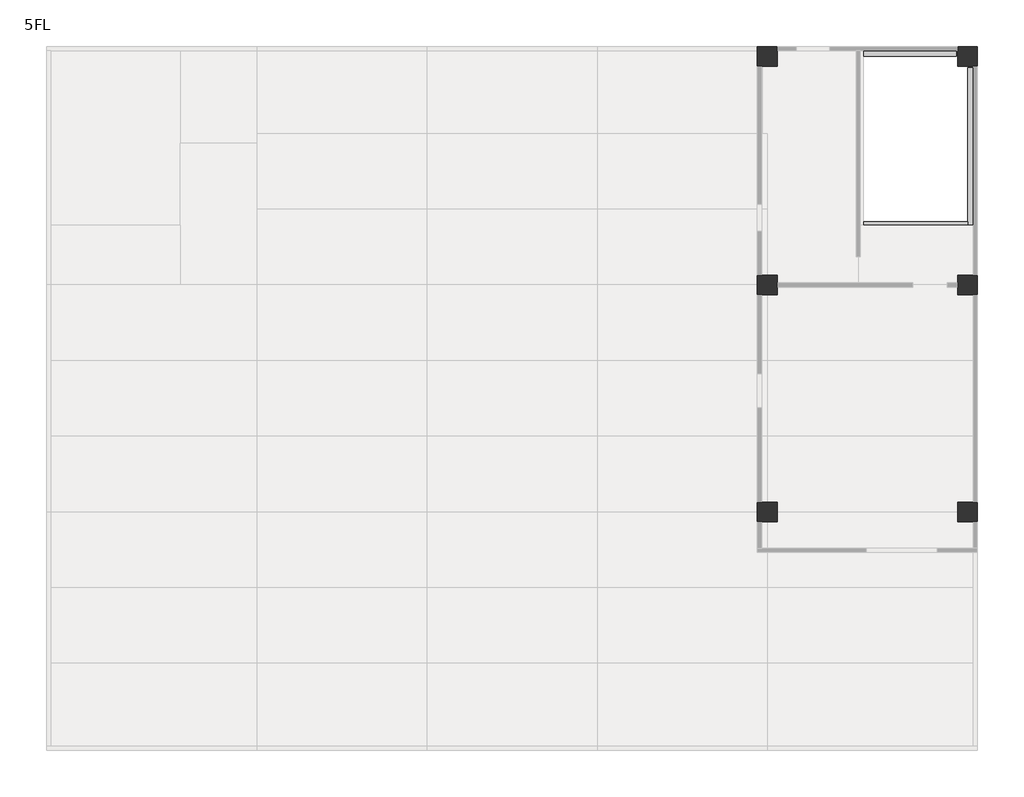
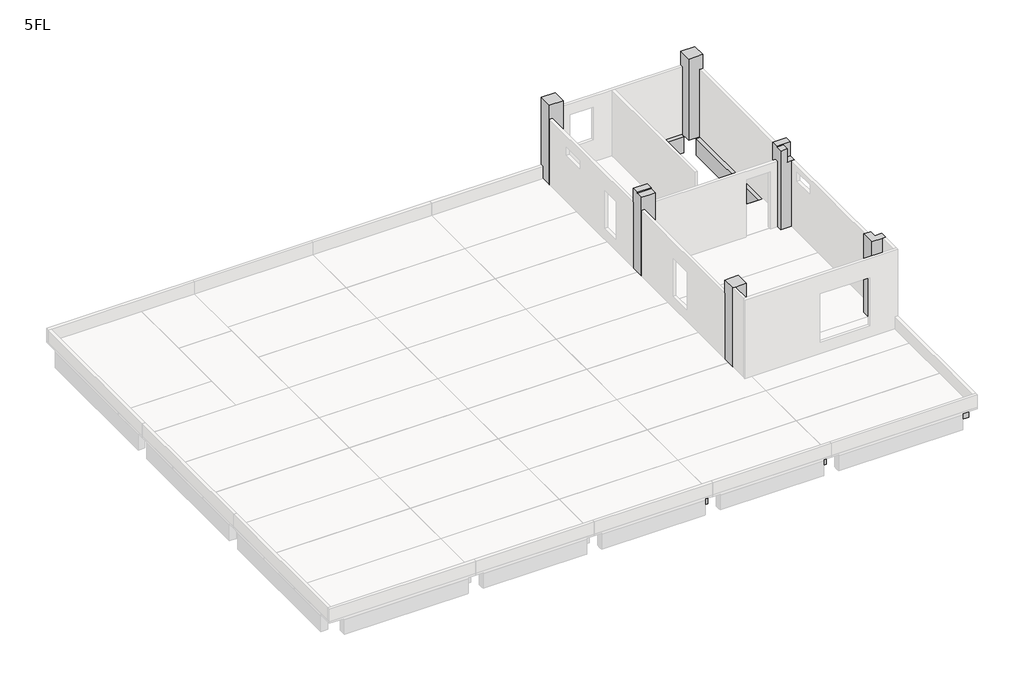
# One storey, part 3 of 3: 52 beams, 6 columns.
"""IFC4 building model written with IfcOpenShell, lengths in millimetres."""

from ifc_helpers import new_model, si_unit, frame, origin, place, context, project, spatial, polyline, outline, extrude, faceted_brep, element, save

model = new_model("IFC4")

# Units and contexts
model_context = context("Model", 3, world=origin())
ifc_project = project(units=[si_unit("LENGTHUNIT", "METRE", prefix="MILLI")], contexts=[model_context])

# Site, building, storey
site = spatial("IfcSite", under=ifc_project)
building = spatial("IfcBuilding", under=site)
storey = spatial("IfcBuildingStorey", under=building, Name="5FL", Elevation=16400.0)

# Beams
placement = place(None, origin())
element("IfcBeam", 1, ObjectType="RC_B : 5G1", at=placement, inside=storey, context=model_context, shape_type="Brep", body=[
    faceted_brep([(6625.0, 24400.0, 15450.0), (350.0, 24400.0, 15450.0), (350.0, 24400.0, 16240.0), (4144.0, 24400.0, 16240.0), (4144.0, 24400.0, 15550.0), (4494.0, 24400.0, 15550.0), (4494.0, 24400.0, 16240.0), (6625.0, 24400.0, 16240.0), (6625.0, 24250.0, 15450.0), (6625.0, 24050.0, 15450.0), (4294.0, 24050.0, 15450.0), (4144.0, 24050.0, 15450.0), (350.0, 24050.0, 15450.0), (350.0, 24250.0, 15450.0), (6625.0, 24050.0, 16240.0), (4494.0, 24050.0, 16240.0), (4494.0, 24050.0, 15550.0), (4294.0, 24050.0, 15550.0), (4144.0, 24050.0, 15550.0), (4144.0, 24050.0, 16240.0), (350.0, 24050.0, 16240.0)], [[[0, 1, 2, 3, 4, 5, 6, 7]], [[0, 8, 9, 10, 11, 12, 13, 1]], [[9, 14, 15, 16, 17, 18, 19, 20, 12, 11, 10]], [[9, 8, 0, 7, 14]], [[14, 7, 6, 15]], [[2, 1, 13, 12, 20]], [[18, 4, 3, 19]], [[4, 18, 17, 16, 5]], [[5, 16, 15, 6]], [[2, 20, 19, 3]]]),
])
element("IfcBeam", 2, ObjectType="RC_B : 5G1", at=placement, inside=storey, context=model_context, shape_type="Brep", body=[
    faceted_brep([(12625.0, 24400.0, 16240.0), (12625.0, 24400.0, 15450.0), (7375.0, 24400.0, 15450.0), (7375.0, 24400.0, 16240.0), (12625.0, 24250.0, 15450.0), (12625.0, 24050.0, 15450.0), (7375.0, 24050.0, 15450.0), (7375.0, 24250.0, 15450.0), (12625.0, 24050.0, 16240.0), (7375.0, 24050.0, 16240.0)], [[[0, 1, 2, 3]], [[1, 4, 5, 6, 7, 2]], [[5, 8, 9, 6]], [[5, 4, 1, 0, 8]], [[8, 0, 3, 9]], [[3, 2, 7, 6, 9]]]),
])
element("IfcBeam", 3, ObjectType="RC_B : 5G1", at=placement, inside=storey, context=model_context, shape_type="Brep", body=[
    faceted_brep([(18625.0, 24400.0, 16240.0), (18625.0, 24400.0, 15450.0), (13375.0, 24400.0, 15450.0), (13375.0, 24400.0, 16240.0), (18625.0, 24250.0, 15450.0), (18625.0, 24050.0, 15450.0), (13375.0, 24050.0, 15450.0), (13375.0, 24250.0, 15450.0), (18625.0, 24050.0, 16240.0), (13375.0, 24050.0, 16240.0)], [[[0, 1, 2, 3]], [[1, 4, 5, 6, 7, 2]], [[5, 8, 9, 6]], [[5, 4, 1, 0, 8]], [[8, 0, 3, 9]], [[3, 2, 7, 6, 9]]]),
])
element("IfcBeam", 4, ObjectType="RC_B : 5G1", at=placement, inside=storey, context=model_context, shape_type="Brep", body=[
    faceted_brep([(24625.0, 24400.0, 15450.0), (19375.0, 24400.0, 15450.0), (19375.0, 24400.0, 16240.0), (24625.0, 24400.0, 16240.0), (19375.0, 24050.0, 15450.0), (19375.0, 24250.0, 15450.0), (24625.0, 24250.0, 15450.0), (24625.0, 24050.0, 15450.0), (24625.0, 24050.0, 16240.0), (19375.0, 24050.0, 16240.0)], [[[0, 1, 2, 3]], [[4, 5, 1, 0, 6, 7]], [[4, 7, 8, 9]], [[1, 5, 4, 9, 2]], [[7, 6, 0, 3, 8]], [[3, 2, 9, 8]]]),
])
element("IfcBeam", 5, ObjectType="RC_B : 5G1", at=placement, inside=storey, context=model_context, shape_type="Brep", body=[
    faceted_brep([(31650.0, 24400.0, 16300.0), (31650.0, 24400.0, 15450.0), (25375.0, 24400.0, 15450.0), (25375.0, 24400.0, 16300.0), (28374.0, 24400.0, 16300.0), (31650.0, 24250.0, 15450.0), (31650.0, 24050.0, 15450.0), (25375.0, 24050.0, 15450.0), (25375.0, 24250.0, 15450.0), (31650.0, 24050.0, 16300.0), (28374.0, 24050.0, 16300.0), (28024.0, 24050.0, 16300.0), (25375.0, 24050.0, 16300.0), (25375.0, 24050.0, 16240.0)], [[[0, 1, 2, 3, 4]], [[1, 5, 6, 7, 8, 2]], [[6, 9, 10, 11, 12, 13, 7]], [[9, 0, 4, 3, 12, 11, 10]], [[1, 0, 9, 6, 5]], [[3, 2, 8, 7, 13, 12]]]),
])
element("IfcBeam", 6, ObjectType="RC_B : 5G11", at=placement, inside=storey, context=model_context, shape_type="Brep", body=[
    faceted_brep([(32050.0, 7625.0, 16240.0), (32050.0, 7625.0, 15400.0), (32050.0, 350.0, 15400.0), (32050.0, 350.0, 16240.0), (32050.0, 2485.0, 16240.0), (32050.0, 2835.0, 16240.0), (32050.0, 5155.0, 16240.0), (32050.0, 5505.0, 16240.0), (32250.0, 7625.0, 15400.0), (32400.0, 7625.0, 15400.0), (32400.0, 350.0, 15400.0), (32250.0, 350.0, 15400.0), (32400.0, 7625.0, 16240.0), (32400.0, 5328.0, 16240.0), (32400.0, 2664.0, 16240.0), (32400.0, 350.0, 16240.0)], [[[0, 1, 2, 3, 4, 5, 6, 7]], [[1, 8, 9, 10, 11, 2]], [[9, 12, 13, 14, 15, 10]], [[9, 8, 1, 0, 12]], [[12, 0, 7, 6, 5, 4, 3, 15, 14, 13]], [[3, 2, 11, 10, 15]]]),
])
element("IfcBeam", 7, ObjectType="RC_B : 5G11", at=placement, inside=storey, context=model_context, shape_type="Brep", body=[
    faceted_brep([(32050.0, 15625.0, 16240.0), (32050.0, 15625.0, 15400.0), (32050.0, 13575.0, 15400.0), (32050.0, 13575.0, 15550.0), (32050.0, 13425.0, 15550.0), (32050.0, 13425.0, 15400.0), (32050.0, 8375.0, 15400.0), (32050.0, 8375.0, 16240.0), (32050.0, 10575.0, 16240.0), (32050.0, 10925.0, 16240.0), (32050.0, 13325.0, 16240.0), (32050.0, 13675.0, 16240.0), (32250.0, 15625.0, 15400.0), (32400.0, 15625.0, 15400.0), (32400.0, 8375.0, 15400.0), (32250.0, 8375.0, 15400.0), (32250.0, 13425.0, 15400.0), (32250.0, 13575.0, 15400.0), (32400.0, 15625.0, 16240.0), (32400.0, 13328.0, 16240.0), (32400.0, 10664.0, 16240.0), (32400.0, 8375.0, 16240.0), (32250.0, 13575.0, 15550.0), (32250.0, 13425.0, 15550.0)], [[[0, 1, 2, 3, 4, 5, 6, 7, 8, 9, 10, 11]], [[1, 12, 13, 14, 15, 6, 5, 16, 17, 2]], [[13, 18, 19, 20, 21, 14]], [[13, 12, 1, 0, 18]], [[18, 0, 11, 10, 9, 8, 7, 21, 20, 19]], [[7, 6, 15, 14, 21]], [[17, 22, 3, 2]], [[4, 23, 16, 5]], [[22, 23, 4, 3]], [[23, 22, 17, 16]]]),
])
element("IfcBeam", 8, ObjectType="RC_B : 5G11", at=placement, inside=storey, context=model_context, shape_type="Brep", body=[
    faceted_brep([(32050.0, 23650.0, 16300.0), (32050.0, 23650.0, 15400.0), (32050.0, 16375.0, 15400.0), (32050.0, 16375.0, 16240.0), (32050.0, 17975.0, 16240.0), (32050.0, 18100.0, 16240.0), (32050.0, 18100.0, 16300.0), (32050.0, 18225.0, 16300.0), (32250.0, 23650.0, 15400.0), (32400.0, 23650.0, 15400.0), (32400.0, 16375.0, 15400.0), (32250.0, 16375.0, 15400.0), (32400.0, 23650.0, 16300.0), (32400.0, 18100.0, 16300.0), (32400.0, 18100.0, 16240.0), (32400.0, 16375.0, 16240.0), (32250.0, 18100.0, 16300.0)], [[[0, 1, 2, 3, 4, 5, 6, 7]], [[1, 8, 9, 10, 11, 2]], [[9, 12, 13, 14, 15, 10]], [[12, 0, 7, 6, 16, 13]], [[1, 0, 12, 9, 8]], [[14, 5, 4, 3, 15]], [[5, 14, 13, 16, 6]], [[3, 2, 11, 10, 15]]]),
])
element("IfcBeam", 9, ObjectType="RC_B : 5G12", at=placement, inside=storey, context=model_context, shape_type="Brep", body=[
    faceted_brep([(6825.0, 8375.0, 15400.0), (6825.0, 8375.0, 16300.0), (6825.0, 10664.0, 16300.0), (6825.0, 10664.0, 16240.0), (6825.0, 10925.0, 16240.0), (6825.0, 13325.0, 16240.0), (6825.0, 13675.0, 16240.0), (6825.0, 15625.0, 16240.0), (6825.0, 15625.0, 15400.0), (7175.0, 8375.0, 15400.0), (7175.0, 15625.0, 15400.0), (7175.0, 15625.0, 16240.0), (7175.0, 8375.0, 16240.0), (7000.0, 8375.0, 16300.0), (7000.0, 10664.0, 16300.0), (7000.0, 8375.0, 16240.0), (7000.0, 15625.0, 16240.0), (7000.0, 10664.0, 16240.0), (7000.0, 10575.0, 16240.0)], [[[0, 1, 2, 3, 4, 5, 6, 7, 8]], [[9, 0, 8, 10]], [[9, 10, 11, 12]], [[2, 1, 13, 14]], [[1, 0, 9, 12, 15, 13]], [[10, 8, 7, 16, 11]], [[3, 17, 18, 15, 12, 11, 16, 7, 6, 5, 4]], [[17, 3, 2, 14]], [[15, 18, 17, 14, 13]]]),
])
element("IfcBeam", 10, ObjectType="RC_B : 5G12", at=placement, inside=storey, context=model_context, shape_type="Brep", body=[
    faceted_brep([(6825.0, 23650.0, 15400.0), (6825.0, 21275.0, 15400.0), (6825.0, 21125.0, 15400.0), (6825.0, 16000.0, 15400.0), (6825.0, 16000.0, 15450.0), (6825.0, 16175.0, 15450.0), (6825.0, 16175.0, 16300.0), (6825.0, 20875.0, 16300.0), (6825.0, 21000.0, 16300.0), (6825.0, 21000.0, 16240.0), (6825.0, 21125.0, 16240.0), (6825.0, 21275.0, 16240.0), (6825.0, 23650.0, 16240.0), (7175.0, 23650.0, 15400.0), (7175.0, 16000.0, 15400.0), (7075.0, 16000.0, 15400.0), (6925.0, 16000.0, 15400.0), (7175.0, 23650.0, 16240.0), (7175.0, 18664.0, 16240.0), (7175.0, 18664.0, 16300.0), (7175.0, 18495.0, 16300.0), (7175.0, 16175.0, 16300.0), (7175.0, 16000.0, 16300.0), (7000.0, 16175.0, 16300.0), (7000.0, 16000.0, 16300.0), (7000.0, 18664.0, 16300.0), (7000.0, 21000.0, 16300.0), (7000.0, 23650.0, 16240.0), (7000.0, 16000.0, 15450.0), (7000.0, 16175.0, 15450.0), (7000.0, 18664.0, 16240.0), (7087.7, 18664.0, 16240.0), (6912.3, 21000.0, 16240.0), (7000.0, 21000.0, 16240.0)], [[[0, 1, 2, 3, 4, 5, 6, 7, 8, 9, 10, 11, 12]], [[0, 13, 14, 15, 16, 3, 2, 1]], [[14, 13, 17, 18, 19, 20, 21, 22]], [[6, 23, 24, 22, 21, 20, 19, 25, 26, 8, 7]], [[13, 0, 12, 27, 17]], [[3, 16, 15, 14, 22, 24, 28, 4]], [[29, 23, 6, 5]], [[29, 5, 4, 28]], [[23, 29, 28, 24]], [[30, 31, 18, 17, 27, 12, 11, 10, 9, 32, 33]], [[18, 31, 30, 25, 19]], [[25, 30, 33, 26]], [[33, 32, 9, 8, 26]]]),
])
element("IfcBeam", 11, ObjectType="RC_B : 5G12", at=placement, inside=storey, context=model_context, shape_type="Brep", body=[
    faceted_brep([(12825.0, 8375.0, 15400.0), (12825.0, 8375.0, 16300.0), (12825.0, 10575.0, 16300.0), (12825.0, 10664.0, 16300.0), (12825.0, 10664.0, 16240.0), (12825.0, 15625.0, 16240.0), (12825.0, 15625.0, 15400.0), (13175.0, 8375.0, 15400.0), (13175.0, 15625.0, 15400.0), (13175.0, 15625.0, 16240.0), (13175.0, 8375.0, 16240.0), (13000.0, 8375.0, 16300.0), (13000.0, 10664.0, 16300.0), (13000.0, 8375.0, 16240.0), (13000.0, 15625.0, 16240.0), (13000.0, 10664.0, 16240.0), (13000.0, 10575.0, 16240.0)], [[[0, 1, 2, 3, 4, 5, 6]], [[7, 0, 6, 8]], [[7, 8, 9, 10]], [[3, 2, 1, 11, 12]], [[1, 0, 7, 10, 13, 11]], [[8, 6, 5, 14, 9]], [[4, 15, 16, 13, 10, 9, 14, 5]], [[15, 4, 3, 12]], [[13, 16, 15, 12, 11]]]),
])
element("IfcBeam", 12, ObjectType="RC_B : 5G12", at=placement, inside=storey, context=model_context, shape_type="Brep", body=[
    faceted_brep([(12825.0, 16375.0, 15400.0), (12825.0, 16375.0, 16300.0), (12825.0, 18495.0, 16300.0), (12825.0, 18664.0, 16300.0), (12825.0, 18664.0, 16240.0), (12825.0, 23650.0, 16240.0), (12825.0, 23650.0, 15400.0), (13175.0, 16375.0, 15400.0), (13175.0, 23650.0, 15400.0), (13175.0, 23650.0, 16240.0), (13175.0, 16375.0, 16240.0), (13000.0, 16375.0, 16300.0), (13000.0, 18664.0, 16300.0), (13000.0, 16375.0, 16240.0), (13000.0, 23650.0, 16240.0), (13000.0, 18664.0, 16240.0), (13000.0, 18495.0, 16240.0)], [[[0, 1, 2, 3, 4, 5, 6]], [[7, 0, 6, 8]], [[7, 8, 9, 10]], [[3, 2, 1, 11, 12]], [[1, 0, 7, 10, 13, 11]], [[8, 6, 5, 14, 9]], [[4, 15, 16, 13, 10, 9, 14, 5]], [[15, 4, 3, 12]], [[13, 16, 15, 12, 11]]]),
])
element("IfcBeam", 13, ObjectType="RC_B : 5G12", at=placement, inside=storey, context=model_context, shape_type="Brep", body=[
    faceted_brep([(18825.0, 350.0, 15400.0), (18825.0, 350.0, 16300.0), (18825.0, 2485.0, 16300.0), (18825.0, 2664.0, 16300.0), (18825.0, 2664.0, 16240.0), (18825.0, 7625.0, 16240.0), (18825.0, 7625.0, 15400.0), (19175.0, 350.0, 15400.0), (19175.0, 7625.0, 15400.0), (19175.0, 350.0, 16300.0), (19175.0, 7625.0, 16240.0), (19175.0, 2664.0, 16240.0), (19175.0, 2664.0, 16300.0), (19175.0, 2485.0, 16300.0), (19000.0, 7625.0, 16240.0)], [[[0, 1, 2, 3, 4, 5, 6]], [[7, 0, 6, 8]], [[9, 7, 8, 10, 11, 12, 13]], [[1, 9, 13, 12, 3, 2]], [[1, 0, 7, 9]], [[8, 6, 5, 14, 10]], [[5, 4, 11, 10, 14]], [[4, 3, 12, 11]]]),
])
element("IfcBeam", 14, ObjectType="RC_B : 5G12", at=placement, inside=storey, context=model_context, shape_type="Brep", body=[
    faceted_brep([(18825.0, 8375.0, 15400.0), (18825.0, 8375.0, 16300.0), (18825.0, 10575.0, 16300.0), (18825.0, 10664.0, 16300.0), (18825.0, 10664.0, 16240.0), (18825.0, 15625.0, 16240.0), (18825.0, 15625.0, 15400.0), (19175.0, 8375.0, 15400.0), (19175.0, 15625.0, 15400.0), (19175.0, 15625.0, 16240.0), (19175.0, 8375.0, 16240.0), (19000.0, 8375.0, 16300.0), (19000.0, 10664.0, 16300.0), (19000.0, 8375.0, 16240.0), (19000.0, 15625.0, 16240.0), (19000.0, 10664.0, 16240.0), (19000.0, 10575.0, 16240.0)], [[[0, 1, 2, 3, 4, 5, 6]], [[7, 0, 6, 8]], [[7, 8, 9, 10]], [[3, 2, 1, 11, 12]], [[1, 0, 7, 10, 13, 11]], [[8, 6, 5, 14, 9]], [[4, 15, 16, 13, 10, 9, 14, 5]], [[15, 4, 3, 12]], [[13, 16, 15, 12, 11]]]),
])
element("IfcBeam", 15, ObjectType="RC_B : 5G12", at=placement, inside=storey, context=model_context, shape_type="Brep", body=[
    faceted_brep([(18825.0, 23650.0, 15400.0), (18825.0, 16375.0, 15400.0), (18825.0, 16375.0, 16240.0), (18825.0, 23650.0, 16240.0), (19175.0, 16375.0, 15400.0), (19175.0, 23650.0, 15400.0), (19175.0, 23650.0, 16240.0), (19175.0, 18845.0, 16240.0), (19175.0, 18495.0, 16240.0), (19175.0, 16375.0, 16240.0), (19000.0, 16375.0, 16240.0), (19000.0, 23650.0, 16240.0)], [[[0, 1, 2, 3]], [[4, 1, 0, 5]], [[4, 5, 6, 7, 8, 9]], [[1, 4, 9, 10, 2]], [[5, 0, 3, 11, 6]], [[3, 2, 10, 9, 8, 7, 6, 11]]]),
])
element("IfcBeam", 16, ObjectType="RC_B : 5G12", at=placement, inside=storey, context=model_context, shape_type="Brep", body=[
    faceted_brep([(24825.0, 350.0, 15400.0), (24825.0, 350.0, 16300.0), (24825.0, 2485.0, 16300.0), (24825.0, 2664.0, 16300.0), (24825.0, 2664.0, 16240.0), (24825.0, 7625.0, 16240.0), (24825.0, 7625.0, 15400.0), (25175.0, 350.0, 15400.0), (25175.0, 7625.0, 15400.0), (25175.0, 350.0, 16300.0), (25175.0, 7625.0, 16240.0), (25175.0, 5505.0, 16240.0), (25175.0, 5155.0, 16240.0), (25175.0, 2835.0, 16240.0), (25175.0, 2664.0, 16240.0), (25175.0, 2664.0, 16300.0), (25000.0, 7625.0, 16240.0), (25000.0, 2664.0, 16240.0)], [[[0, 1, 2, 3, 4, 5, 6]], [[7, 0, 6, 8]], [[9, 7, 8, 10, 11, 12, 13, 14, 15]], [[1, 9, 15, 3, 2]], [[1, 0, 7, 9]], [[8, 6, 5, 16, 10]], [[5, 4, 17, 14, 13, 12, 11, 10, 16]], [[4, 3, 15, 14, 17]]]),
])
element("IfcBeam", 17, ObjectType="RC_B : 5G12", at=placement, inside=storey, context=model_context, shape_type="Brep", body=[
    faceted_brep([(24825.0, 15625.0, 15400.0), (24825.0, 8000.0, 15400.0), (24825.0, 8000.0, 15450.0), (24825.0, 8175.0, 15450.0), (24825.0, 8175.0, 16300.0), (24825.0, 10575.0, 16300.0), (24825.0, 10664.0, 16300.0), (24825.0, 10664.0, 16240.0), (24825.0, 15625.0, 16240.0), (25175.0, 15625.0, 15400.0), (25175.0, 8000.0, 15400.0), (25175.0, 15625.0, 16240.0), (25175.0, 13675.0, 16240.0), (25175.0, 13575.0, 16240.0), (25175.0, 13425.0, 16240.0), (25175.0, 13325.0, 16240.0), (25175.0, 10925.0, 16240.0), (25175.0, 10664.0, 16240.0), (25175.0, 10664.0, 16300.0), (25175.0, 8000.0, 16300.0), (25000.0, 8000.0, 16300.0), (25000.0, 8175.0, 16300.0), (25000.0, 15625.0, 16240.0), (25000.0, 8000.0, 15450.0), (25000.0, 8175.0, 15450.0), (24912.3, 10664.0, 16240.0), (25000.0, 10664.0, 16240.0)], [[[0, 1, 2, 3, 4, 5, 6, 7, 8]], [[0, 9, 10, 1]], [[10, 9, 11, 12, 13, 14, 15, 16, 17, 18, 19]], [[20, 19, 18, 6, 5, 4, 21]], [[9, 0, 8, 22, 11]], [[1, 10, 19, 20, 23, 2]], [[24, 21, 4, 3]], [[24, 3, 2, 23]], [[21, 24, 23, 20]], [[8, 7, 25, 26, 17, 16, 15, 14, 13, 12, 11, 22]], [[7, 6, 18, 17, 26, 25]]]),
])
element("IfcBeam", 18, ObjectType="RC_B : 5G12", at=placement, inside=storey, context=model_context, shape_type="Brep", body=[
    faceted_brep([(24825.0, 23650.0, 15400.0), (24825.0, 16000.0, 15400.0), (24825.0, 16000.0, 15450.0), (24825.0, 16175.0, 15450.0), (24825.0, 16175.0, 16240.0), (24825.0, 18495.0, 16240.0), (24825.0, 18845.0, 16240.0), (24825.0, 21328.0, 16240.0), (24825.0, 23650.0, 16240.0), (25175.0, 23650.0, 15400.0), (25175.0, 16000.0, 15400.0), (25175.0, 23650.0, 16240.0), (25175.0, 16175.0, 16240.0), (25175.0, 16000.0, 16240.0), (25000.0, 16000.0, 16240.0), (25000.0, 16000.0, 15450.0), (25000.0, 16175.0, 15450.0), (25000.0, 16175.0, 16240.0)], [[[0, 1, 2, 3, 4, 5, 6, 7, 8]], [[0, 9, 10, 1]], [[10, 9, 11, 12, 13]], [[9, 0, 8, 11]], [[1, 10, 13, 14, 15, 2]], [[3, 16, 17, 4]], [[16, 3, 2, 15]], [[16, 15, 14, 17]], [[4, 17, 14, 13, 12, 11, 8, 7, 6, 5]]]),
])
element("IfcBeam", 19, ObjectType="RC_B : 5G2", at=placement, inside=storey, context=model_context, shape_type="SweptSolid", body=[
    extrude(outline(polyline([(8175.0, 15450.0), (7825.0, 15450.0), (7825.0, 16300.0), (8000.0, 16300.0), (8000.0, 16240.0), (8175.0, 16240.0), (8175.0, 15450.0)])), frame((7375.0, 0.0, 0.0), z_axis=(1.0, 0.0, 0.0), x_axis=(0.0, 1.0, 0.0)), (0.0, 0.0, 1.0), 5250.0),
])
element("IfcBeam", 20, ObjectType="RC_B : 5G2", at=placement, inside=storey, context=model_context, shape_type="Brep", body=[
    faceted_brep([(18625.0, 8175.0, 15450.0), (13375.0, 8175.0, 15450.0), (13375.0, 8175.0, 16240.0), (18625.0, 8175.0, 16240.0), (13375.0, 7825.0, 15450.0), (18625.0, 7825.0, 15450.0), (18625.0, 7825.0, 16240.0), (13375.0, 7825.0, 16240.0), (13375.0, 8000.0, 16240.0), (18625.0, 8000.0, 16240.0)], [[[0, 1, 2, 3]], [[4, 1, 0, 5]], [[4, 5, 6, 7]], [[1, 4, 7, 8, 2]], [[5, 0, 3, 9, 6]], [[3, 2, 8, 7, 6, 9]]]),
])
element("IfcBeam", 21, ObjectType="RC_B : 5G2", at=placement, inside=storey, context=model_context, shape_type="Brep", body=[
    faceted_brep([(24625.0, 8175.0, 15450.0), (19375.0, 8175.0, 15450.0), (19375.0, 8175.0, 16240.0), (24625.0, 8175.0, 16240.0), (19375.0, 7825.0, 15450.0), (24625.0, 7825.0, 15450.0), (24625.0, 7825.0, 16240.0), (19375.0, 7825.0, 16240.0), (19375.0, 8000.0, 16240.0), (24625.0, 8000.0, 16240.0)], [[[0, 1, 2, 3]], [[4, 1, 0, 5]], [[4, 5, 6, 7]], [[1, 4, 7, 8, 2]], [[5, 0, 3, 9, 6]], [[3, 2, 8, 7, 6, 9]]]),
])
element("IfcBeam", 22, ObjectType="RC_B : 5G2", at=placement, inside=storey, context=model_context, shape_type="Brep", body=[
    faceted_brep([(31650.0, 8175.0, 15450.0), (25175.0, 8175.0, 15450.0), (25175.0, 8175.0, 16240.0), (31650.0, 8175.0, 16240.0), (31650.0, 7825.0, 15450.0), (25175.0, 7825.0, 15450.0), (31650.0, 7825.0, 16240.0), (25175.0, 7825.0, 16240.0), (31650.0, 8000.0, 16240.0)], [[[0, 1, 2, 3]], [[0, 4, 5, 1]], [[5, 4, 6, 7]], [[4, 0, 3, 8, 6]], [[1, 5, 7, 2]], [[7, 6, 8, 3, 2]]]),
])
element("IfcBeam", 23, ObjectType="RC_B : 5G2", at=placement, inside=storey, context=model_context, shape_type="Brep", body=[
    faceted_brep([(6625.0, 16175.0, 15450.0), (0.0, 16175.0, 15450.0), (0.0, 16175.0, 16240.0), (6625.0, 16175.0, 16240.0), (6625.0, 15825.0, 15450.0), (0.0, 15825.0, 15450.0), (6625.0, 15825.0, 16240.0), (0.0, 15825.0, 16240.0), (6625.0, 16000.0, 16240.0)], [[[0, 1, 2, 3]], [[0, 4, 5, 1]], [[5, 4, 6, 7]], [[4, 0, 3, 8, 6]], [[1, 5, 7, 2]], [[7, 6, 8, 3, 2]]]),
])
element("IfcBeam", 24, ObjectType="RC_B : 5G2", at=placement, inside=storey, context=model_context, shape_type="Brep", body=[
    faceted_brep([(12625.0, 16175.0, 16300.0), (12625.0, 16175.0, 15450.0), (7175.0, 16175.0, 15450.0), (7175.0, 16175.0, 16300.0), (12625.0, 15825.0, 15450.0), (7175.0, 15825.0, 15450.0), (12625.0, 15825.0, 16300.0), (7175.0, 15825.0, 16300.0), (7175.0, 16000.0, 16300.0)], [[[0, 1, 2, 3]], [[1, 4, 5, 2]], [[4, 6, 7, 5]], [[6, 0, 3, 8, 7]], [[4, 1, 0, 6]], [[5, 7, 8, 3, 2]]]),
])
element("IfcBeam", 25, ObjectType="RC_B : 5G2", at=placement, inside=storey, context=model_context, shape_type="Brep", body=[
    faceted_brep([(18625.0, 16175.0, 15450.0), (13375.0, 16175.0, 15450.0), (13375.0, 16175.0, 16240.0), (18625.0, 16175.0, 16240.0), (13375.0, 15825.0, 15450.0), (18625.0, 15825.0, 15450.0), (18625.0, 15825.0, 16240.0), (13375.0, 15825.0, 16240.0), (13375.0, 16000.0, 16240.0), (18625.0, 16000.0, 16240.0)], [[[0, 1, 2, 3]], [[4, 1, 0, 5]], [[4, 5, 6, 7]], [[1, 4, 7, 8, 2]], [[5, 0, 3, 9, 6]], [[3, 2, 8, 7, 6, 9]]]),
])
element("IfcBeam", 26, ObjectType="RC_B : 5G2", at=placement, inside=storey, context=model_context, shape_type="Brep", body=[
    faceted_brep([(24625.0, 16175.0, 15450.0), (19375.0, 16175.0, 15450.0), (19375.0, 16175.0, 16240.0), (24625.0, 16175.0, 16240.0), (19375.0, 15825.0, 15450.0), (24625.0, 15825.0, 15450.0), (24625.0, 15825.0, 16240.0), (19375.0, 15825.0, 16240.0), (19375.0, 16000.0, 16240.0), (24625.0, 16000.0, 16240.0)], [[[0, 1, 2, 3]], [[4, 1, 0, 5]], [[4, 5, 6, 7]], [[1, 4, 7, 8, 2]], [[5, 0, 3, 9, 6]], [[7, 6, 9, 3, 2, 8]]]),
])
element("IfcBeam", 27, ObjectType="RC_B : 5G2", at=placement, inside=storey, context=model_context, shape_type="Brep", body=[
    faceted_brep([(31650.0, 16175.0, 15450.0), (25175.0, 16175.0, 15450.0), (25175.0, 16175.0, 16240.0), (28221.0, 16175.0, 16240.0), (28374.0, 16175.0, 16240.0), (31650.0, 16175.0, 16240.0), (31650.0, 15825.0, 15450.0), (25175.0, 15825.0, 15450.0), (31650.0, 15825.0, 16240.0), (25175.0, 15825.0, 16240.0), (31650.0, 16000.0, 16240.0), (25175.0, 16000.0, 16240.0)], [[[0, 1, 2, 3, 4, 5]], [[0, 6, 7, 1]], [[7, 6, 8, 9]], [[6, 0, 5, 10, 8]], [[1, 7, 9, 11, 2]], [[9, 8, 10, 5, 4, 3, 2, 11]]]),
])
element("IfcBeam", 28, ObjectType="RC_B : B1", at=placement, inside=storey, context=model_context, shape_type="Brep", body=[
    faceted_brep([(13175.0, 2835.0, 15550.0), (13175.0, 2835.0, 16300.0), (18825.0, 2835.0, 16300.0), (18825.0, 2835.0, 15550.0), (13175.0, 2485.0, 15550.0), (18825.0, 2485.0, 15550.0), (13175.0, 2485.0, 16300.0), (18825.0, 2485.0, 16300.0), (13175.0, 2664.0, 16300.0), (18825.0, 2664.0, 16300.0)], [[[0, 1, 2, 3]], [[4, 0, 3, 5]], [[6, 4, 5, 7]], [[1, 8, 6, 7, 9, 2]], [[1, 0, 4, 6, 8]], [[3, 2, 9, 7, 5]]]),
])
element("IfcBeam", 29, ObjectType="RC_B : B1", at=placement, inside=storey, context=model_context, shape_type="SweptSolid", body=[
    extrude(outline(polyline([(13175.0, 5155.0), (13175.0, 5505.0), (18825.0, 5505.0), (18825.0, 5155.0), (13175.0, 5155.0)])), frame((0.0, 0.0, 15550.0), z_axis=(0.0, 0.0, 1.0), x_axis=(1.0, 0.0, 0.0)), (0.0, 0.0, 1.0), 750.0),
])
element("IfcBeam", 30, ObjectType="RC_B : B1", at=placement, inside=storey, context=model_context, shape_type="Brep", body=[
    faceted_brep([(19175.0, 2835.0, 15550.0), (19175.0, 2835.0, 16300.0), (24825.0, 2835.0, 16300.0), (24825.0, 2835.0, 15550.0), (19175.0, 2485.0, 15550.0), (24825.0, 2485.0, 15550.0), (19175.0, 2485.0, 16300.0), (24825.0, 2485.0, 16300.0), (19175.0, 2664.0, 16300.0), (24825.0, 2664.0, 16300.0)], [[[0, 1, 2, 3]], [[4, 0, 3, 5]], [[6, 4, 5, 7]], [[1, 8, 6, 7, 9, 2]], [[1, 0, 4, 6, 8]], [[3, 2, 9, 7, 5]]]),
])
element("IfcBeam", 31, ObjectType="RC_B : B1", at=placement, inside=storey, context=model_context, shape_type="SweptSolid", body=[
    extrude(outline(polyline([(19175.0, 5155.0), (19175.0, 5505.0), (24825.0, 5505.0), (24825.0, 5155.0), (19175.0, 5155.0)])), frame((0.0, 0.0, 15550.0), z_axis=(0.0, 0.0, 1.0), x_axis=(1.0, 0.0, 0.0)), (0.0, 0.0, 1.0), 750.0),
])
element("IfcBeam", 32, ObjectType="RC_B : B1", at=placement, inside=storey, context=model_context, shape_type="Brep", body=[
    faceted_brep([(32050.0, 2835.0, 15550.0), (25175.0, 2835.0, 15550.0), (25175.0, 2835.0, 16240.0), (32050.0, 2835.0, 16240.0), (25175.0, 2485.0, 15550.0), (32050.0, 2485.0, 15550.0), (32050.0, 2485.0, 16240.0), (25175.0, 2485.0, 16240.0), (25175.0, 2664.0, 16240.0)], [[[0, 1, 2, 3]], [[4, 1, 0, 5]], [[4, 5, 6, 7]], [[1, 4, 7, 8, 2]], [[5, 0, 3, 6]], [[3, 2, 8, 7, 6]]]),
])
element("IfcBeam", 33, ObjectType="RC_B : B1", at=placement, inside=storey, context=model_context, shape_type="SweptSolid", body=[
    extrude(outline(polyline([(25175.0, 5155.0), (25175.0, 5505.0), (32050.0, 5505.0), (32050.0, 5155.0), (25175.0, 5155.0)])), frame((0.0, 0.0, 15550.0), z_axis=(0.0, 0.0, 1.0), x_axis=(1.0, 0.0, 0.0)), (0.0, 0.0, 1.0), 690.0),
])
element("IfcBeam", 34, ObjectType="RC_B : B1", at=placement, inside=storey, context=model_context, shape_type="Brep", body=[
    faceted_brep([(7175.0, 10925.0, 15550.0), (7175.0, 10925.0, 16300.0), (12825.0, 10925.0, 16300.0), (12825.0, 10925.0, 15550.0), (7175.0, 10575.0, 15550.0), (12825.0, 10575.0, 15550.0), (7175.0, 10575.0, 16300.0), (12825.0, 10575.0, 16300.0), (12825.0, 10664.0, 16300.0)], [[[0, 1, 2, 3]], [[4, 0, 3, 5]], [[6, 4, 5, 7]], [[1, 6, 7, 8, 2]], [[1, 0, 4, 6]], [[3, 2, 8, 7, 5]]]),
])
element("IfcBeam", 35, ObjectType="RC_B : B1", at=placement, inside=storey, context=model_context, shape_type="SweptSolid", body=[
    extrude(outline(polyline([(7175.0, 13325.0), (7175.0, 13675.0), (12825.0, 13675.0), (12825.0, 13325.0), (7175.0, 13325.0)])), frame((0.0, 0.0, 15550.0), z_axis=(0.0, 0.0, 1.0), x_axis=(1.0, 0.0, 0.0)), (0.0, 0.0, 1.0), 750.0),
])
element("IfcBeam", 36, ObjectType="RC_B : B1", at=placement, inside=storey, context=model_context, shape_type="Brep", body=[
    faceted_brep([(13175.0, 10925.0, 15550.0), (13175.0, 10925.0, 16300.0), (18825.0, 10925.0, 16300.0), (18825.0, 10925.0, 15550.0), (13175.0, 10575.0, 15550.0), (18825.0, 10575.0, 15550.0), (13175.0, 10575.0, 16300.0), (18825.0, 10575.0, 16300.0), (18825.0, 10664.0, 16300.0)], [[[0, 1, 2, 3]], [[4, 0, 3, 5]], [[6, 4, 5, 7]], [[1, 6, 7, 8, 2]], [[1, 0, 4, 6]], [[3, 2, 8, 7, 5]]]),
])
element("IfcBeam", 37, ObjectType="RC_B : B1", at=placement, inside=storey, context=model_context, shape_type="SweptSolid", body=[
    extrude(outline(polyline([(13175.0, 13325.0), (13175.0, 13675.0), (18825.0, 13675.0), (18825.0, 13325.0), (13175.0, 13325.0)])), frame((0.0, 0.0, 15550.0), z_axis=(0.0, 0.0, 1.0), x_axis=(1.0, 0.0, 0.0)), (0.0, 0.0, 1.0), 750.0),
])
element("IfcBeam", 38, ObjectType="RC_B : B1", at=placement, inside=storey, context=model_context, shape_type="Brep", body=[
    faceted_brep([(19175.0, 10925.0, 15550.0), (19175.0, 10925.0, 16300.0), (24825.0, 10925.0, 16300.0), (24825.0, 10925.0, 15550.0), (19175.0, 10575.0, 15550.0), (24825.0, 10575.0, 15550.0), (19175.0, 10575.0, 16300.0), (24825.0, 10575.0, 16300.0), (24825.0, 10664.0, 16300.0)], [[[0, 1, 2, 3]], [[4, 0, 3, 5]], [[6, 4, 5, 7]], [[1, 6, 7, 8, 2]], [[1, 0, 4, 6]], [[3, 2, 8, 7, 5]]]),
])
element("IfcBeam", 39, ObjectType="RC_B : B1", at=placement, inside=storey, context=model_context, shape_type="SweptSolid", body=[
    extrude(outline(polyline([(19175.0, 13325.0), (19175.0, 13675.0), (24825.0, 13675.0), (24825.0, 13325.0), (19175.0, 13325.0)])), frame((0.0, 0.0, 15550.0), z_axis=(0.0, 0.0, 1.0), x_axis=(1.0, 0.0, 0.0)), (0.0, 0.0, 1.0), 750.0),
])
element("IfcBeam", 40, ObjectType="RC_B : B1", at=placement, inside=storey, context=model_context, shape_type="Brep", body=[
    faceted_brep([(32050.0, 10925.0, 15550.0), (25175.0, 10925.0, 15550.0), (25175.0, 10925.0, 16240.0), (32050.0, 10925.0, 16240.0), (25175.0, 10575.0, 15550.0), (32050.0, 10575.0, 15550.0), (32050.0, 10575.0, 16240.0), (25175.0, 10575.0, 16240.0), (25175.0, 10664.0, 16240.0)], [[[0, 1, 2, 3]], [[4, 1, 0, 5]], [[4, 5, 6, 7]], [[1, 4, 7, 8, 2]], [[5, 0, 3, 6]], [[3, 2, 8, 7, 6]]]),
])
element("IfcBeam", 41, ObjectType="RC_B : B1", at=placement, inside=storey, context=model_context, shape_type="Brep", body=[
    faceted_brep([(32050.0, 13675.0, 15550.0), (25175.0, 13675.0, 15550.0), (25175.0, 13675.0, 16240.0), (32050.0, 13675.0, 16240.0), (32050.0, 13575.0, 15550.0), (32050.0, 13425.0, 15550.0), (32050.0, 13325.0, 15550.0), (25175.0, 13325.0, 15550.0), (25175.0, 13425.0, 15550.0), (29435.0, 13425.0, 15550.0), (29435.0, 13575.0, 15550.0), (25175.0, 13575.0, 15550.0), (32050.0, 13325.0, 16240.0), (25175.0, 13325.0, 16240.0), (25175.0, 13425.0, 16240.0), (25175.0, 13575.0, 16240.0), (29435.0, 13575.0, 16240.0), (29435.0, 13425.0, 16240.0)], [[[0, 1, 2, 3]], [[0, 4, 5, 6, 7, 8, 9, 10, 11, 1]], [[7, 6, 12, 13]], [[7, 13, 14, 8]], [[6, 5, 4, 0, 3, 12]], [[3, 2, 15, 16, 17, 14, 13, 12]], [[17, 9, 8, 14]], [[9, 17, 16, 10]], [[10, 16, 15, 11]], [[2, 1, 11, 15]]]),
])
element("IfcBeam", 42, ObjectType="RC_B : B1", at=placement, inside=storey, context=model_context, shape_type="Brep", body=[
    faceted_brep([(7175.0, 18845.0, 15550.0), (7175.0, 18845.0, 16300.0), (12825.0, 18845.0, 16300.0), (12825.0, 18845.0, 15550.0), (7175.0, 18495.0, 15550.0), (12825.0, 18495.0, 15550.0), (7175.0, 18495.0, 16300.0), (12825.0, 18495.0, 16300.0), (7175.0, 18664.0, 16300.0), (12825.0, 18664.0, 16300.0)], [[[0, 1, 2, 3]], [[4, 0, 3, 5]], [[6, 4, 5, 7]], [[1, 8, 6, 7, 9, 2]], [[1, 0, 4, 6, 8]], [[3, 2, 9, 7, 5]]]),
])
element("IfcBeam", 43, ObjectType="RC_B : B1", at=placement, inside=storey, context=model_context, shape_type="SweptSolid", body=[
    extrude(outline(polyline([(7175.0, 21165.0), (7175.0, 21515.0), (12825.0, 21515.0), (12825.0, 21165.0), (7175.0, 21165.0)])), frame((0.0, 0.0, 15550.0), z_axis=(0.0, 0.0, 1.0), x_axis=(1.0, 0.0, 0.0)), (0.0, 0.0, 1.0), 750.0),
])
element("IfcBeam", 44, ObjectType="RC_B : B1", at=placement, inside=storey, context=model_context, shape_type="SweptSolid", body=[
    extrude(outline(polyline([(13175.0, 18495.0), (13175.0, 18845.0), (18825.0, 18845.0), (18825.0, 18495.0), (13175.0, 18495.0)])), frame((0.0, 0.0, 15550.0), z_axis=(0.0, 0.0, 1.0), x_axis=(1.0, 0.0, 0.0)), (0.0, 0.0, 1.0), 750.0),
])
element("IfcBeam", 45, ObjectType="RC_B : B1", at=placement, inside=storey, context=model_context, shape_type="SweptSolid", body=[
    extrude(outline(polyline([(13175.0, 21165.0), (13175.0, 21515.0), (18825.0, 21515.0), (18825.0, 21165.0), (13175.0, 21165.0)])), frame((0.0, 0.0, 15550.0), z_axis=(0.0, 0.0, 1.0), x_axis=(1.0, 0.0, 0.0)), (0.0, 0.0, 1.0), 750.0),
])
element("IfcBeam", 46, ObjectType="RC_B : B1", at=placement, inside=storey, context=model_context, shape_type="SweptSolid", body=[
    extrude(outline(polyline([(19175.0, 18495.0), (19175.0, 18845.0), (24825.0, 18845.0), (24825.0, 18495.0), (19175.0, 18495.0)])), frame((0.0, 0.0, 15550.0), z_axis=(0.0, 0.0, 1.0), x_axis=(1.0, 0.0, 0.0)), (0.0, 0.0, 1.0), 690.0),
])
element("IfcBeam", 47, ObjectType="RC_B : B1", at=placement, inside=storey, context=model_context, shape_type="Brep", body=[
    faceted_brep([(19175.0, 21515.0, 15550.0), (19175.0, 21515.0, 16300.0), (24825.0, 21515.0, 16300.0), (24825.0, 21515.0, 16240.0), (24825.0, 21515.0, 15550.0), (19175.0, 21165.0, 15550.0), (24825.0, 21165.0, 15550.0), (19175.0, 21165.0, 16300.0), (24825.0, 21165.0, 16300.0), (24825.0, 21328.0, 16300.0)], [[[0, 1, 2, 3, 4]], [[5, 0, 4, 6]], [[7, 5, 6, 8]], [[1, 7, 8, 9, 2]], [[1, 0, 5, 7]], [[4, 3, 2, 9, 8, 6]]]),
])
element("IfcBeam", 48, ObjectType="RC_B : B3", at=placement, inside=storey, context=model_context, shape_type="Brep", body=[
    faceted_brep([(4144.0, 18225.0, 15700.0), (2075.0, 18225.0, 15700.0), (1925.0, 18225.0, 15700.0), (-50.0, 18225.0, 15700.0), (-50.0, 18225.0, 16240.0), (1925.0, 18225.0, 16240.0), (2075.0, 18225.0, 16240.0), (4144.0, 18225.0, 16240.0), (4144.0, 17975.0, 15700.0), (-50.0, 17975.0, 15700.0), (4144.0, 17975.0, 16240.0), (-50.0, 17975.0, 16240.0), (4144.0, 18100.0, 16240.0)], [[[0, 1, 2, 3, 4, 5, 6, 7]], [[0, 8, 9, 3, 2, 1]], [[9, 8, 10, 11]], [[8, 0, 7, 12, 10]], [[3, 9, 11, 4]], [[11, 10, 12, 7, 6, 5, 4]]]),
])
element("IfcBeam", 49, ObjectType="RC_B : B3", at=placement, inside=storey, context=model_context, shape_type="Brep", body=[
    faceted_brep([(6825.0, 21125.0, 16300.0), (6825.0, 21125.0, 16240.0), (6825.0, 21125.0, 15700.0), (4494.0, 21125.0, 15700.0), (4494.0, 21125.0, 16240.0), (4494.0, 21125.0, 16300.0), (6825.0, 20875.0, 15700.0), (4494.0, 20875.0, 15700.0), (6825.0, 20875.0, 16300.0), (4494.0, 20875.0, 16300.0), (6825.0, 21000.0, 16300.0)], [[[0, 1, 2, 3, 4, 5]], [[2, 6, 7, 3]], [[6, 8, 9, 7]], [[8, 10, 0, 5, 9]], [[2, 1, 0, 10, 8, 6]], [[5, 4, 3, 7, 9]]]),
])
element("IfcBeam", 50, ObjectType="RC_B : B3", at=placement, inside=storey, context=model_context, shape_type="Brep", body=[
    faceted_brep([(28374.0, 18225.0, 15700.0), (28374.0, 18225.0, 16300.0), (30025.0, 18225.0, 16300.0), (30175.0, 18225.0, 16300.0), (32050.0, 18225.0, 16300.0), (32050.0, 18225.0, 15700.0), (30175.0, 18225.0, 15700.0), (30025.0, 18225.0, 15700.0), (28374.0, 17975.0, 15700.0), (32050.0, 17975.0, 15700.0), (32050.0, 17975.0, 16240.0), (28374.0, 17975.0, 16240.0), (28374.0, 18100.0, 16300.0), (32050.0, 18100.0, 16300.0), (28374.0, 18100.0, 16240.0), (32050.0, 18100.0, 16240.0)], [[[0, 1, 2, 3, 4, 5, 6, 7]], [[8, 0, 7, 6, 5, 9]], [[8, 9, 10, 11]], [[4, 3, 2, 1, 12, 13]], [[1, 0, 8, 11, 14, 12]], [[5, 4, 13, 15, 10, 9]], [[15, 14, 11, 10]], [[14, 15, 13, 12]]]),
])
element("IfcBeam", 51, ObjectType="RC_B : B4", at=placement, inside=storey, context=model_context, shape_type="Brep", body=[
    faceted_brep([(4144.0, 24400.0, 16300.0), (4144.0, 24400.0, 16240.0), (4144.0, 24400.0, 15550.0), (4144.0, 24050.0, 15550.0), (4144.0, 17600.0, 15550.0), (4144.0, 16175.0, 15550.0), (4144.0, 16175.0, 16300.0), (4144.0, 18100.0, 16300.0), (4494.0, 24400.0, 15550.0), (4494.0, 24050.0, 15550.0), (4494.0, 21275.0, 15550.0), (4494.0, 21125.0, 15550.0), (4494.0, 16175.0, 15550.0), (4494.0, 24400.0, 16240.0), (4494.0, 24400.0, 16300.0), (4494.0, 21125.0, 16300.0), (4494.0, 20875.0, 16300.0), (4494.0, 16175.0, 16300.0), (4319.0, 24400.0, 16300.0)], [[[0, 1, 2, 3, 4, 5, 6, 7]], [[2, 8, 9, 10, 11, 12, 5, 4, 3]], [[8, 13, 14, 15, 16, 17, 12, 11, 10, 9]], [[14, 18, 0, 7, 6, 17, 16, 15]], [[6, 5, 12, 17]], [[2, 1, 0, 18, 14, 13, 8]]]),
])
element("IfcBeam", 52, ObjectType="RC_B : B4", at=placement, inside=storey, context=model_context, shape_type="Brep", body=[
    faceted_brep([(28024.0, 16175.0, 15550.0), (28024.0, 16175.0, 16300.0), (28024.0, 24050.0, 16300.0), (28024.0, 24050.0, 16240.0), (28024.0, 24050.0, 15550.0), (28374.0, 16175.0, 15550.0), (28374.0, 24050.0, 15550.0), (28374.0, 24050.0, 16300.0), (28374.0, 18225.0, 16300.0), (28374.0, 18100.0, 16300.0), (28374.0, 18100.0, 16240.0), (28374.0, 17975.0, 16240.0), (28374.0, 16175.0, 16240.0), (28221.0, 16175.0, 16300.0), (28221.0, 18100.0, 16300.0), (28221.0, 16175.0, 16240.0), (28221.0, 18100.0, 16240.0)], [[[0, 1, 2, 3, 4]], [[5, 0, 4, 6]], [[5, 6, 7, 8, 9, 10, 11, 12]], [[2, 1, 13, 14, 9, 8, 7]], [[1, 0, 5, 12, 15, 13]], [[4, 3, 2, 7, 6]], [[10, 16, 15, 12, 11]], [[15, 16, 14, 13]], [[16, 10, 9, 14]]]),
])

# Columns
element("IfcColumn", 53, ObjectType="RC_C_B : 5C1", at=placement, inside=storey, context=model_context, shape_type="Brep", body=[
    faceted_brep([(25350.0, 16350.0, 16300.0), (25350.0, 16000.0, 16300.0), (25350.0, 15650.0, 16300.0), (25000.0, 15650.0, 16300.0), (24650.0, 15650.0, 16300.0), (24650.0, 16000.0, 16300.0), (24650.0, 16350.0, 16300.0), (25000.0, 16350.0, 16300.0), (25350.0, 16350.0, 16390.0), (25350.0, 16350.0, 20600.0), (25350.0, 16350.0, 20650.0), (25350.0, 16000.0, 20650.0), (25350.0, 16000.0, 20600.0), (25350.0, 15825.0, 20600.0), (25350.0, 15650.0, 20600.0), (25350.0, 15650.0, 16390.0), (25000.0, 15650.0, 20600.0), (24650.0, 15650.0, 20600.0), (24650.0, 15650.0, 19900.0), (24650.0, 15650.0, 16400.0), (24650.0, 15650.0, 16390.0), (24650.0, 16000.0, 20600.0), (24650.0, 16000.0, 20650.0), (24650.0, 16350.0, 20650.0), (24650.0, 16350.0, 20600.0), (24650.0, 16350.0, 19900.0), (24650.0, 16350.0, 16400.0), (24650.0, 16350.0, 16390.0)], [[[0, 1, 2, 3, 4, 5, 6, 7]], [[2, 1, 0, 8, 9, 10, 11, 12, 13, 14, 15]], [[4, 3, 2, 15, 14, 16, 17, 18, 19, 20]], [[6, 5, 4, 20, 19, 18, 17, 21, 22, 23, 24, 25, 26, 27]], [[0, 7, 6, 27, 26, 25, 24, 23, 10, 9, 8]], [[10, 23, 22, 11]], [[12, 21, 17, 16, 14, 13]], [[21, 12, 11, 22]]]),
])
element("IfcColumn", 54, ObjectType="RC_C_B : 5C1", at=placement, inside=storey, context=model_context, shape_type="Brep", body=[
    faceted_brep([(32400.0, 16350.0, 16300.0), (32400.0, 15650.0, 16300.0), (31700.0, 15650.0, 16300.0), (31700.0, 16000.0, 16300.0), (31700.0, 16350.0, 16300.0), (32400.0, 16350.0, 16390.0), (32400.0, 16350.0, 19900.0), (32400.0, 16350.0, 20600.0), (32400.0, 16350.0, 20650.0), (32400.0, 16000.0, 20650.0), (32400.0, 16000.0, 20600.0), (32400.0, 16000.0, 19900.0), (32400.0, 15650.0, 19900.0), (32400.0, 15650.0, 16390.0), (32250.0, 15650.0, 19900.0), (32050.0, 15650.0, 19900.0), (32050.0, 15650.0, 20600.0), (31700.0, 15650.0, 20600.0), (31700.0, 15650.0, 16390.0), (31700.0, 15825.0, 20600.0), (31700.0, 16000.0, 20600.0), (31700.0, 16000.0, 20650.0), (31700.0, 16350.0, 20650.0), (31700.0, 16350.0, 20600.0), (31700.0, 16350.0, 16390.0), (32050.0, 16000.0, 20600.0), (32050.0, 16000.0, 19900.0)], [[[0, 1, 2, 3, 4]], [[1, 0, 5, 6, 7, 8, 9, 10, 11, 12, 13]], [[2, 1, 13, 12, 14, 15, 16, 17, 18]], [[4, 3, 2, 18, 17, 19, 20, 21, 22, 23, 24]], [[0, 4, 24, 23, 22, 8, 7, 6, 5]], [[8, 22, 21, 9]], [[20, 19, 17, 16, 25]], [[21, 20, 25, 26, 11, 10, 9]], [[26, 25, 16, 15]], [[11, 26, 15, 14, 12]]]),
])
element("IfcColumn", 55, ObjectType="RC_C_B : 5C1", at=placement, inside=storey, context=model_context, shape_type="Brep", body=[
    faceted_brep([(25350.0, 24400.0, 16300.0), (25350.0, 23700.0, 16300.0), (24825.0, 23700.0, 16300.0), (24825.0, 24250.0, 16300.0), (25000.0, 24250.0, 16300.0), (25000.0, 24400.0, 16300.0), (25350.0, 24400.0, 16390.0), (25350.0, 24400.0, 19900.0), (25350.0, 24400.0, 20650.0), (25350.0, 24050.0, 20650.0), (25350.0, 23700.0, 20650.0), (25350.0, 23700.0, 20600.0), (25350.0, 23700.0, 16390.0), (24650.0, 23700.0, 20650.0), (24650.0, 23700.0, 20600.0), (24650.0, 23700.0, 19900.0), (24650.0, 23700.0, 16400.0), (24650.0, 23700.0, 16390.0), (24825.0, 23700.0, 16390.0), (24650.0, 24400.0, 20650.0), (24650.0, 24400.0, 17050.0), (24650.0, 24250.0, 17050.0), (24650.0, 24250.0, 16390.0), (25000.0, 24400.0, 17050.0), (25000.0, 24250.0, 17050.0), (24825.0, 24250.0, 16390.0)], [[[0, 1, 2, 3, 4, 5]], [[1, 0, 6, 7, 8, 9, 10, 11, 12]], [[1, 12, 11, 10, 13, 14, 15, 16, 17, 18, 2]], [[13, 19, 20, 21, 22, 17, 16, 15, 14]], [[8, 7, 6, 0, 5, 23, 20, 19]], [[10, 9, 8, 19, 13]], [[24, 4, 3, 25, 22, 21]], [[23, 24, 21, 20]], [[4, 24, 23, 5]], [[25, 18, 17, 22]], [[18, 25, 3, 2]]]),
])
element("IfcColumn", 56, ObjectType="RC_C_B : 5C1", at=placement, inside=storey, context=model_context, shape_type="Brep", body=[
    faceted_brep([(25350.0, 7650.0, 16390.0), (25350.0, 8350.0, 16390.0), (25350.0, 8350.0, 20600.0), (25350.0, 8000.0, 20600.0), (25350.0, 7650.0, 20600.0), (25350.0, 7650.0, 19900.0), (24650.0, 7650.0, 16390.0), (24800.0, 7650.0, 20600.0), (24650.0, 7650.0, 20600.0), (24650.0, 7650.0, 16400.0), (24650.0, 8350.0, 16390.0), (24650.0, 8350.0, 20600.0), (24650.0, 8350.0, 19900.0), (24650.0, 8350.0, 16400.0), (25000.0, 8350.0, 20600.0)], [[[0, 1, 2, 3, 4, 5]], [[6, 0, 5, 4, 7, 8, 9]], [[10, 6, 9, 8, 11, 12, 13]], [[1, 10, 13, 12, 11, 14, 2]], [[0, 6, 10, 1]], [[4, 3, 2, 14, 11, 8, 7]]]),
])
element("IfcColumn", 57, ObjectType="RC_C_B : 5C1", at=placement, inside=storey, context=model_context, shape_type="Brep", body=[
    faceted_brep([(32400.0, 7650.0, 20600.0), (32400.0, 7650.0, 16400.0), (32400.0, 7650.0, 16390.0), (32400.0, 8000.0, 16390.0), (32400.0, 8350.0, 16390.0), (32400.0, 8350.0, 19900.0), (32400.0, 8000.0, 19900.0), (32400.0, 8000.0, 20600.0), (31700.0, 7650.0, 16390.0), (32250.0, 7650.0, 20600.0), (31700.0, 7650.0, 20600.0), (31700.0, 7650.0, 19900.0), (31700.0, 8350.0, 20600.0), (31700.0, 8350.0, 16390.0), (31700.0, 8000.0, 20600.0), (32250.0, 8350.0, 16390.0), (32050.0, 8350.0, 20600.0), (32050.0, 8350.0, 19900.0), (32250.0, 8350.0, 19900.0), (32050.0, 8000.0, 20600.0), (32050.0, 8000.0, 19900.0)], [[[0, 1, 2, 3, 4, 5, 6, 7]], [[8, 2, 1, 0, 9, 10, 11]], [[12, 13, 8, 11, 10, 14]], [[4, 15, 13, 12, 16, 17, 18, 5]], [[2, 8, 13, 15, 4, 3]], [[12, 14, 10, 9, 0, 7, 19, 16]], [[20, 17, 16, 19]], [[20, 6, 5, 18, 17]], [[6, 20, 19, 7]]]),
])
element("IfcColumn", 58, ObjectType="RC_C_B : 5C2", at=placement, inside=storey, context=model_context, shape_type="Brep", body=[
    faceted_brep([(32400.0, 24400.0, 16300.0), (32400.0, 23700.0, 16300.0), (32250.0, 23700.0, 16300.0), (31700.0, 23700.0, 16300.0), (31700.0, 24250.0, 16300.0), (31700.0, 24400.0, 16300.0), (32400.0, 24400.0, 20650.0), (32400.0, 23700.0, 20650.0), (32400.0, 23700.0, 20600.0), (32400.0, 23700.0, 19900.0), (31700.0, 23700.0, 20650.0), (31700.0, 23700.0, 20600.0), (31700.0, 24400.0, 20650.0), (31700.0, 24400.0, 20600.0), (31700.0, 24400.0, 19900.0)], [[[0, 1, 2, 3, 4, 5]], [[6, 7, 8, 9, 1, 0]], [[7, 10, 11, 3, 2, 1, 9, 8]], [[10, 12, 13, 14, 5, 4, 3, 11]], [[12, 6, 0, 5, 14, 13]], [[6, 12, 10, 7]]]),
])

save(model, "model.ifc")
